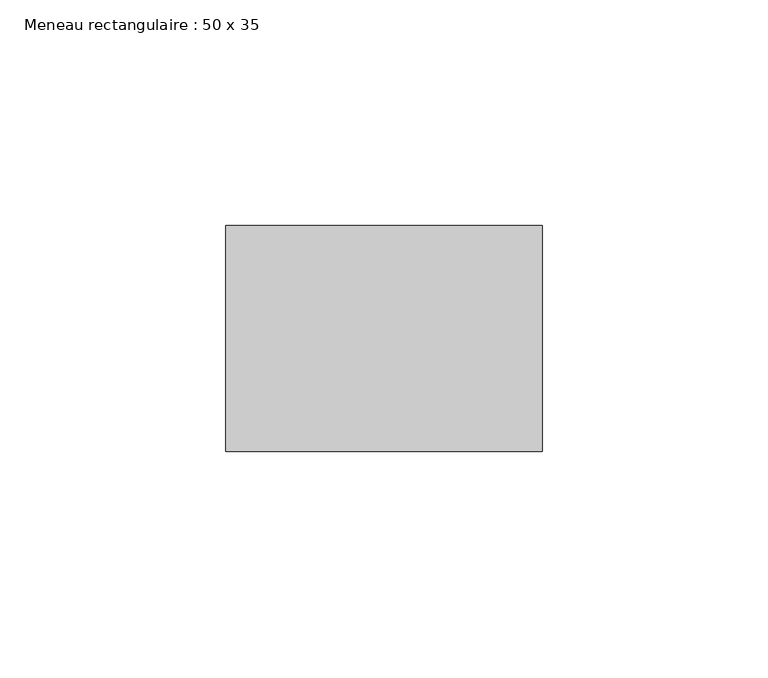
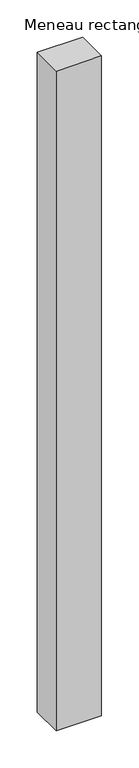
"""IFC4 building model written with IfcOpenShell, lengths in millimetres: member geometry, Meneau rectangulaire : 50 x 35."""

from ifc_helpers import new_model, si_unit, frame, origin, place, context, project, spatial, polyline, outline, extrude, source, transform, mapped, element, save


def meneau_rectangulaire_50_x_35_89d0e8bb(model_context):
    return source(origin(), model_context, "Body", "SweptSolid", [
        extrude(outline(polyline([(35.0, 0.0), (35.0, -50.0), (-35.0, -50.0), (-35.0, 0.0), (35.0, 0.0)])), frame((0.0, 0.0, -1076.3280173), z_axis=(0.0, 0.0, 1.0), x_axis=(1.0, 0.0, 0.0)), (0.0, 0.0, 1.0), 1076.3280173),
    ])


if __name__ == "__main__":
    model = new_model("IFC4")
    model_context = context("Model", 3, world=origin())
    ifc_project = project(units=[si_unit("LENGTHUNIT", "METRE", prefix="MILLI")], contexts=[model_context])
    site = spatial("IfcSite", under=ifc_project)
    building = spatial("IfcBuilding", under=site)
    placement = place(None, origin())
    meneau_rectangulaire_50_x_35_shape = meneau_rectangulaire_50_x_35_89d0e8bb(model_context)
    element("IfcMember", 1, ObjectType="Meneau rectangulaire : 50 x 35", at=placement, inside=building, context=model_context, shape_type="MappedRepresentation", body=[
        mapped(meneau_rectangulaire_50_x_35_shape, transform((0.0, 0.0, 0.0), x_axis=(1.0, 0.0, 0.0), y_axis=(0.0, 1.0, 0.0), z_axis=(0.0, 0.0, 1.0))),
    ])
    save(model, "model.ifc")
